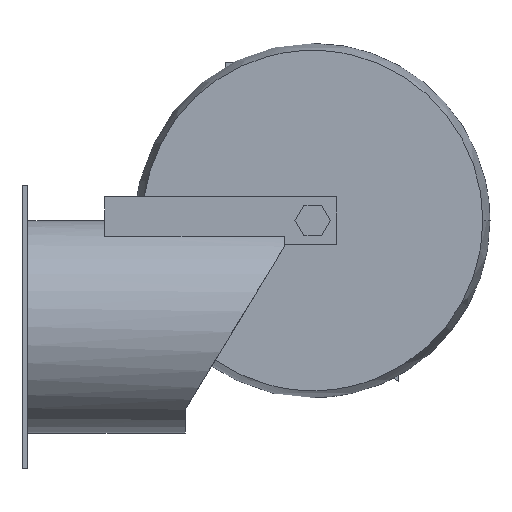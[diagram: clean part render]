
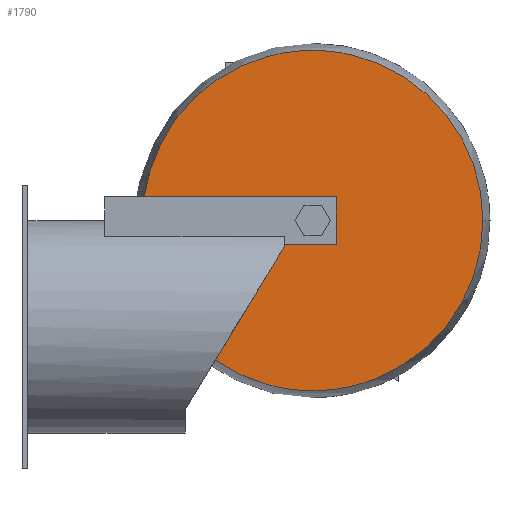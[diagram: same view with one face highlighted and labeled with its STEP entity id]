
A CAD part, left-side view. The second image highlights one B-rep face of the part: STEP entity #1790.
In plain terms, the highlighted planar face has unit normal (-1, 0, 0).
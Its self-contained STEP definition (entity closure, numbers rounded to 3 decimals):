
#39 = PLANE ( 'NONE',  #187 ) ;
#65 = DIRECTION ( 'NONE',  ( 1., 0., 0. ) ) ;
#93 = CARTESIAN_POINT ( 'NONE',  ( -21., -111., 45. ) ) ;
#133 = VECTOR ( 'NONE', #549, 1000. ) ;
#187 = AXIS2_PLACEMENT_3D ( 'NONE', #1074, #65, #1655 ) ;
#192 = VERTEX_POINT ( 'NONE', #1796 ) ;
#271 = ORIENTED_EDGE ( 'NONE', *, *, #289, .T. ) ;
#289 = EDGE_CURVE ( 'NONE', #1720, #1457, #1408, .T. ) ;
#296 = CARTESIAN_POINT ( 'NONE',  ( -21., -123., 35. ) ) ;
#300 = VERTEX_POINT ( 'NONE', #1679 ) ;
#305 = EDGE_CURVE ( 'NONE', #192, #300, #675, .T. ) ;
#308 = VECTOR ( 'NONE', #403, 1000. ) ;
#388 = DIRECTION ( 'NONE',  ( 0., 1., 0. ) ) ;
#396 = CARTESIAN_POINT ( 'NONE',  ( -21., -123., 55. ) ) ;
#403 = DIRECTION ( 'NONE',  ( 0., 0., 1. ) ) ;
#404 = DIRECTION ( 'NONE',  ( 0., 0., -1. ) ) ;
#452 = DIRECTION ( 'NONE',  ( 0., 0., -1. ) ) ;
#520 = DIRECTION ( 'NONE',  ( 0., 0.52, -0.854 ) ) ;
#535 = LINE ( 'NONE', #93, #308 ) ;
#549 = DIRECTION ( 'NONE',  ( 0., 0., 1. ) ) ;
#592 = DIRECTION ( 'NONE',  ( 1., 0., 0. ) ) ;
#675 = LINE ( 'NONE', #396, #1858 ) ;
#680 = ORIENTED_EDGE ( 'NONE', *, *, #1062, .F. ) ;
#723 = CIRCLE ( 'NONE', #1786, 72. ) ;
#731 = EDGE_CURVE ( 'NONE', #1720, #1704, #535, .T. ) ;
#746 = CARTESIAN_POINT ( 'NONE',  ( -21., -111., 35. ) ) ;
#867 = LINE ( 'NONE', #1727, #133 ) ;
#929 = ORIENTED_EDGE ( 'NONE', *, *, #1135, .F. ) ;
#981 = VERTEX_POINT ( 'NONE', #1762 ) ;
#1029 = ORIENTED_EDGE ( 'NONE', *, *, #1168, .F. ) ;
#1051 = VECTOR ( 'NONE', #1272, 1000. ) ;
#1057 = VERTEX_POINT ( 'NONE', #1154 ) ;
#1062 = EDGE_CURVE ( 'NONE', #1057, #192, #867, .T. ) ;
#1065 = ORIENTED_EDGE ( 'NONE', *, *, #1451, .F. ) ;
#1074 = CARTESIAN_POINT ( 'NONE',  ( -21., -123., 45. ) ) ;
#1135 = EDGE_CURVE ( 'NONE', #1704, #1057, #1552, .T. ) ;
#1154 = CARTESIAN_POINT ( 'NONE',  ( -21., -133., 35. ) ) ;
#1160 = ORIENTED_EDGE ( 'NONE', *, *, #731, .F. ) ;
#1168 = EDGE_CURVE ( 'NONE', #981, #1457, #723, .T. ) ;
#1178 = CARTESIAN_POINT ( 'NONE',  ( -21., -123., 45. ) ) ;
#1260 = EDGE_LOOP ( 'NONE', ( #1065, #1776, #680, #929, #1160, #271, #1029 ) ) ;
#1262 = CARTESIAN_POINT ( 'NONE',  ( -21., -123., 45. ) ) ;
#1272 = DIRECTION ( 'NONE',  ( 0., -1., 0. ) ) ;
#1371 = CARTESIAN_POINT ( 'NONE',  ( -21., -69., -35. ) ) ;
#1377 = DIRECTION ( 'NONE',  ( 1., 0., 0. ) ) ;
#1399 = CARTESIAN_POINT ( 'NONE',  ( -21., -81.768, -14.025 ) ) ;
#1408 = LINE ( 'NONE', #1371, #1610 ) ;
#1451 = EDGE_CURVE ( 'NONE', #300, #981, #1838, .T. ) ;
#1457 = VERTEX_POINT ( 'NONE', #1399 ) ;
#1474 = AXIS2_PLACEMENT_3D ( 'NONE', #1262, #1377, #404 ) ;
#1493 = FACE_OUTER_BOUND ( 'NONE', #1260, .T. ) ;
#1552 = LINE ( 'NONE', #296, #1051 ) ;
#1610 = VECTOR ( 'NONE', #520, 1000. ) ;
#1655 = DIRECTION ( 'NONE',  ( 0., 0., -1. ) ) ;
#1679 = CARTESIAN_POINT ( 'NONE',  ( -21., -51.698, 55. ) ) ;
#1704 = VERTEX_POINT ( 'NONE', #746 ) ;
#1720 = VERTEX_POINT ( 'NONE', #1780 ) ;
#1727 = CARTESIAN_POINT ( 'NONE',  ( -21., -133., 45. ) ) ;
#1762 = CARTESIAN_POINT ( 'NONE',  ( -21., -195., 44.999 ) ) ;
#1776 = ORIENTED_EDGE ( 'NONE', *, *, #305, .F. ) ;
#1780 = CARTESIAN_POINT ( 'NONE',  ( -21., -111., 34. ) ) ;
#1786 = AXIS2_PLACEMENT_3D ( 'NONE', #1178, #592, #452 ) ;
#1790 = ADVANCED_FACE ( 'NONE', ( #1493 ), #39, .F. ) ;
#1796 = CARTESIAN_POINT ( 'NONE',  ( -21., -133., 55. ) ) ;
#1838 = CIRCLE ( 'NONE', #1474, 72. ) ;
#1858 = VECTOR ( 'NONE', #388, 1000. ) ;
